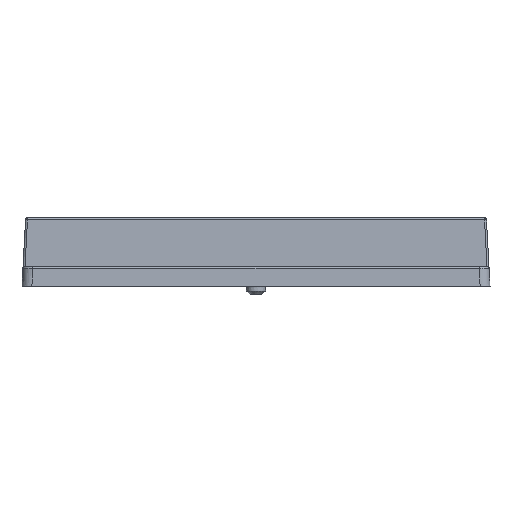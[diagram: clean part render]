
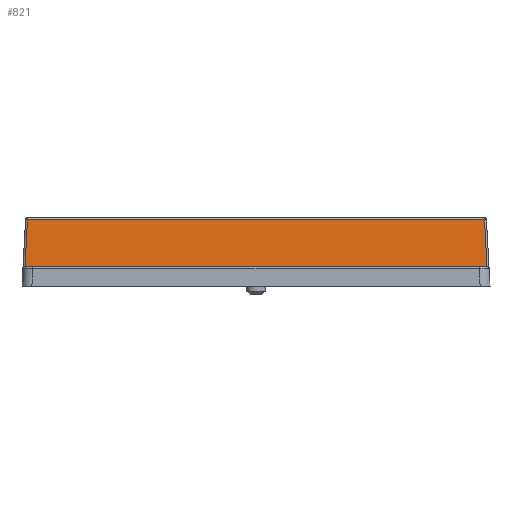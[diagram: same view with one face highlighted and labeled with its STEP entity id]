
A CAD part, front view. The second image highlights one B-rep face of the part: STEP entity #821.
In plain terms, the highlighted planar face has unit normal (0, -0.999, 0.052).
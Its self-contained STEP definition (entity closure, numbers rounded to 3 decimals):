
#821=ADVANCED_FACE('',(#2332),#2333,.F.);
#2332=FACE_OUTER_BOUND('',#5087,.T.);
#2333=PLANE('',#5088);
#5087=EDGE_LOOP('',(#80317,#80318,#80319,#80320));
#5088=AXIS2_PLACEMENT_3D('',#80321,#80322,#80323);
#80317=ORIENTED_EDGE('',*,*,#86075,.T.);
#80318=ORIENTED_EDGE('',*,*,#86076,.T.);
#80319=ORIENTED_EDGE('',*,*,#86069,.T.);
#80320=ORIENTED_EDGE('',*,*,#86077,.F.);
#80321=CARTESIAN_POINT('',(8.3,-6.679,5.2));
#80322=DIRECTION('',(0.0,0.999,-0.052));
#80323=DIRECTION('',(0.0,-0.052,-0.999));
#86069=EDGE_CURVE('',#88654,#88655,#88656,.T.);
#86075=EDGE_CURVE('',#88665,#88666,#88667,.F.);
#86076=EDGE_CURVE('',#88666,#88654,#88668,.F.);
#86077=EDGE_CURVE('',#88665,#88655,#88669,.T.);
#88654=VERTEX_POINT('',#92211);
#88655=VERTEX_POINT('',#92212);
#88656=LINE('',#92213,#92214);
#88665=VERTEX_POINT('',#92224);
#88666=VERTEX_POINT('',#92225);
#88667=LINE('',#92226,#92227);
#88668=LINE('',#92228,#92229);
#88669=LINE('',#92230,#92231);
#92211=CARTESIAN_POINT('',(-6.498,-6.631,6.116));
#92212=CARTESIAN_POINT('',(-6.745,-6.878,1.4));
#92213=CARTESIAN_POINT('',(-6.746,-6.879,1.39));
#92214=VECTOR('',#98635,1.0);
#92224=CARTESIAN_POINT('',(39.945,-6.878,1.4));
#92225=CARTESIAN_POINT('',(39.698,-6.631,6.116));
#92226=CARTESIAN_POINT('',(39.699,-6.632,6.097));
#92227=VECTOR('',#98646,1.0);
#92228=CARTESIAN_POINT('',(-6.483,-6.631,6.116));
#92229=VECTOR('',#98647,1.0);
#92230=CARTESIAN_POINT('',(8.3,-6.878,1.4));
#92231=VECTOR('',#98648,1.0);
#98635=DIRECTION('',(-0.052,-0.052,-0.997));
#98646=DIRECTION('',(0.052,-0.052,-0.997));
#98647=DIRECTION('',(1.0,0.0,0.0));
#98648=DIRECTION('',(-1.0,0.0,0.0));
